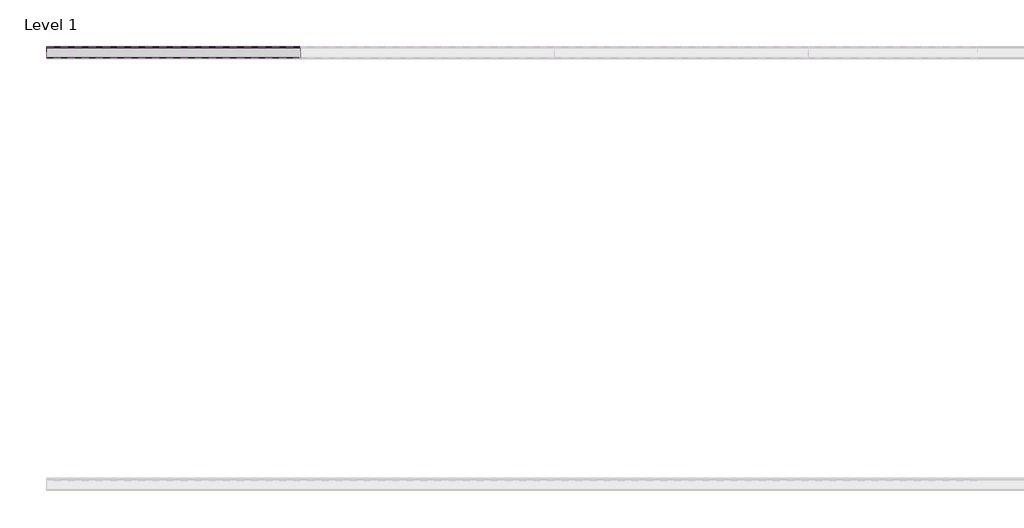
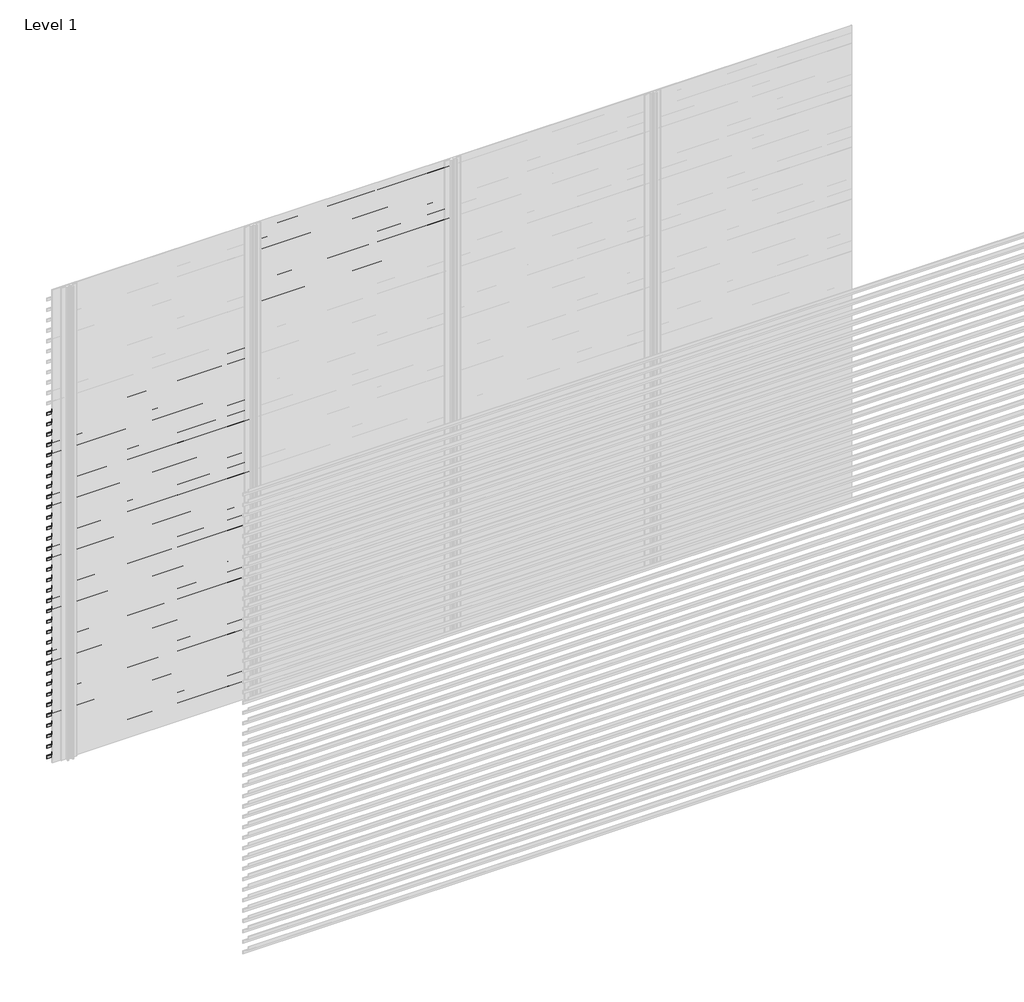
# One storey, part 20 of 540: 43 proxies.
"""IFC4 building model written with IfcOpenShell, lengths in millimetres."""

from ifc_helpers import new_model, si_unit, origin, place, context, project, spatial, faceted_brep, element, save

model = new_model("IFC4")

# Units and contexts
model_context = context("Model", 3, world=origin())
ifc_project = project(units=[si_unit("LENGTHUNIT", "METRE", prefix="MILLI")], contexts=[model_context])

# Site, building, storey
site = spatial("IfcSite", under=ifc_project)
building = spatial("IfcBuilding", under=site)
storey = spatial("IfcBuildingStorey", under=building, Name="Level 1", Elevation=0.0)

# Proxies
placement = place(None, origin())
element("IfcBuildingElementProxy", 1, Name="Wall Sweeps", at=placement, inside=storey, context=model_context, shape_type="Brep", body=[
    faceted_brep([(1666.6208097, 7042.0270068, 2187.5), (1666.6208097, 6988.2770068, 2225.0285629), (1666.6208097, 6988.2770068, 2244.0), (1666.6208097, 6987.0270068, 2244.0), (1666.6208097, 6987.0270068, 2224.3158044), (1666.6208097, 7040.7770068, 2186.7872415), (1666.6208097, 7040.7770068, 2168.2216933), (1666.6208097, 7042.0270068, 2167.5), (466.6208097, 7042.0270068, 2187.5), (466.6208097, 7042.0270068, 2167.5), (466.6208097, 7040.7770068, 2168.2216933), (466.6208097, 7040.7770068, 2186.7872415), (466.6208097, 6987.0270068, 2224.3158044), (466.6208097, 6987.0270068, 2244.0), (466.6208097, 6988.2770068, 2244.0), (466.6208097, 6988.2770068, 2225.0285629)], [[[0, 1, 2, 3, 4, 5, 6, 7]], [[8, 9, 10, 11, 12, 13, 14, 15]], [[1, 0, 8, 15]], [[2, 1, 15, 14]], [[4, 3, 13, 12]], [[6, 5, 11, 10]], [[7, 6, 10, 9]], [[0, 7, 9, 8]], [[3, 2, 14, 13]], [[5, 4, 12, 11]]]),
])
element("IfcBuildingElementProxy", 2, Name="Wall Sweeps", at=placement, inside=storey, context=model_context, shape_type="Brep", body=[
    faceted_brep([(1666.6208097, 7042.0270068, 2121.5), (1666.6208097, 6988.2770068, 2159.0285629), (1666.6208097, 6988.2770068, 2178.0), (1666.6208097, 6987.0270068, 2178.0), (1666.6208097, 6987.0270068, 2158.3158044), (1666.6208097, 7040.7770068, 2120.7872415), (1666.6208097, 7040.7770068, 2102.2216933), (1666.6208097, 7042.0270068, 2101.5), (466.6208097, 7042.0270068, 2121.5), (466.6208097, 7042.0270068, 2101.5), (466.6208097, 7040.7770068, 2102.2216933), (466.6208097, 7040.7770068, 2120.7872415), (466.6208097, 6987.0270068, 2158.3158044), (466.6208097, 6987.0270068, 2178.0), (466.6208097, 6988.2770068, 2178.0), (466.6208097, 6988.2770068, 2159.0285629)], [[[0, 1, 2, 3, 4, 5, 6, 7]], [[8, 9, 10, 11, 12, 13, 14, 15]], [[1, 0, 8, 15]], [[2, 1, 15, 14]], [[4, 3, 13, 12]], [[6, 5, 11, 10]], [[7, 6, 10, 9]], [[0, 7, 9, 8]], [[3, 2, 14, 13]], [[5, 4, 12, 11]]]),
])
element("IfcBuildingElementProxy", 3, Name="Wall Sweeps", at=placement, inside=storey, context=model_context, shape_type="Brep", body=[
    faceted_brep([(1666.6208097, 7042.0270068, 2055.5), (1666.6208097, 6988.2770068, 2093.0285629), (1666.6208097, 6988.2770068, 2112.0), (1666.6208097, 6987.0270068, 2112.0), (1666.6208097, 6987.0270068, 2092.3158044), (1666.6208097, 7040.7770068, 2054.7872415), (1666.6208097, 7040.7770068, 2036.2216933), (1666.6208097, 7042.0270068, 2035.5), (466.6208097, 7042.0270068, 2055.5), (466.6208097, 7042.0270068, 2035.5), (466.6208097, 7040.7770068, 2036.2216933), (466.6208097, 7040.7770068, 2054.7872415), (466.6208097, 6987.0270068, 2092.3158044), (466.6208097, 6987.0270068, 2112.0), (466.6208097, 6988.2770068, 2112.0), (466.6208097, 6988.2770068, 2093.0285629)], [[[0, 1, 2, 3, 4, 5, 6, 7]], [[8, 9, 10, 11, 12, 13, 14, 15]], [[1, 0, 8, 15]], [[2, 1, 15, 14]], [[4, 3, 13, 12]], [[6, 5, 11, 10]], [[7, 6, 10, 9]], [[0, 7, 9, 8]], [[3, 2, 14, 13]], [[5, 4, 12, 11]]]),
])
element("IfcBuildingElementProxy", 4, Name="Wall Sweeps", at=placement, inside=storey, context=model_context, shape_type="Brep", body=[
    faceted_brep([(1666.6208097, 7042.0270068, 1989.5), (1666.6208097, 6988.2770068, 2027.0285629), (1666.6208097, 6988.2770068, 2046.0), (1666.6208097, 6987.0270068, 2046.0), (1666.6208097, 6987.0270068, 2026.3158044), (1666.6208097, 7040.7770068, 1988.7872415), (1666.6208097, 7040.7770068, 1970.2216933), (1666.6208097, 7042.0270068, 1969.5), (466.6208097, 7042.0270068, 1989.5), (466.6208097, 7042.0270068, 1969.5), (466.6208097, 7040.7770068, 1970.2216933), (466.6208097, 7040.7770068, 1988.7872415), (466.6208097, 6987.0270068, 2026.3158044), (466.6208097, 6987.0270068, 2046.0), (466.6208097, 6988.2770068, 2046.0), (466.6208097, 6988.2770068, 2027.0285629)], [[[0, 1, 2, 3, 4, 5, 6, 7]], [[8, 9, 10, 11, 12, 13, 14, 15]], [[1, 0, 8, 15]], [[2, 1, 15, 14]], [[4, 3, 13, 12]], [[6, 5, 11, 10]], [[7, 6, 10, 9]], [[0, 7, 9, 8]], [[3, 2, 14, 13]], [[5, 4, 12, 11]]]),
])
element("IfcBuildingElementProxy", 5, Name="Wall Sweeps", at=placement, inside=storey, context=model_context, shape_type="Brep", body=[
    faceted_brep([(1666.6208097, 7042.0270068, 1923.5), (1666.6208097, 6988.2770068, 1961.0285629), (1666.6208097, 6988.2770068, 1980.0), (1666.6208097, 6987.0270068, 1980.0), (1666.6208097, 6987.0270068, 1960.3158044), (1666.6208097, 7040.7770068, 1922.7872415), (1666.6208097, 7040.7770068, 1904.2216933), (1666.6208097, 7042.0270068, 1903.5), (466.6208097, 7042.0270068, 1923.5), (466.6208097, 7042.0270068, 1903.5), (466.6208097, 7040.7770068, 1904.2216933), (466.6208097, 7040.7770068, 1922.7872415), (466.6208097, 6987.0270068, 1960.3158044), (466.6208097, 6987.0270068, 1980.0), (466.6208097, 6988.2770068, 1980.0), (466.6208097, 6988.2770068, 1961.0285629)], [[[0, 1, 2, 3, 4, 5, 6, 7]], [[8, 9, 10, 11, 12, 13, 14, 15]], [[1, 0, 8, 15]], [[2, 1, 15, 14]], [[4, 3, 13, 12]], [[6, 5, 11, 10]], [[7, 6, 10, 9]], [[0, 7, 9, 8]], [[3, 2, 14, 13]], [[5, 4, 12, 11]]]),
])
element("IfcBuildingElementProxy", 6, Name="Wall Sweeps", at=placement, inside=storey, context=model_context, shape_type="Brep", body=[
    faceted_brep([(1666.6208097, 7042.0270068, 1857.5), (1666.6208097, 6988.2770068, 1895.0285629), (1666.6208097, 6988.2770068, 1914.0), (1666.6208097, 6987.0270068, 1914.0), (1666.6208097, 6987.0270068, 1894.3158044), (1666.6208097, 7040.7770068, 1856.7872415), (1666.6208097, 7040.7770068, 1838.2216933), (1666.6208097, 7042.0270068, 1837.5), (466.6208097, 7042.0270068, 1857.5), (466.6208097, 7042.0270068, 1837.5), (466.6208097, 7040.7770068, 1838.2216933), (466.6208097, 7040.7770068, 1856.7872415), (466.6208097, 6987.0270068, 1894.3158044), (466.6208097, 6987.0270068, 1914.0), (466.6208097, 6988.2770068, 1914.0), (466.6208097, 6988.2770068, 1895.0285629)], [[[0, 1, 2, 3, 4, 5, 6, 7]], [[8, 9, 10, 11, 12, 13, 14, 15]], [[1, 0, 8, 15]], [[2, 1, 15, 14]], [[4, 3, 13, 12]], [[6, 5, 11, 10]], [[7, 6, 10, 9]], [[0, 7, 9, 8]], [[3, 2, 14, 13]], [[5, 4, 12, 11]]]),
])
element("IfcBuildingElementProxy", 7, Name="Wall Sweeps", at=placement, inside=storey, context=model_context, shape_type="Brep", body=[
    faceted_brep([(1666.6208097, 7042.0270068, 1791.5), (1666.6208097, 6988.2770068, 1829.0285629), (1666.6208097, 6988.2770068, 1848.0), (1666.6208097, 6987.0270068, 1848.0), (1666.6208097, 6987.0270068, 1828.3158044), (1666.6208097, 7040.7770068, 1790.7872415), (1666.6208097, 7040.7770068, 1772.2216933), (1666.6208097, 7042.0270068, 1771.5), (466.6208097, 7042.0270068, 1791.5), (466.6208097, 7042.0270068, 1771.5), (466.6208097, 7040.7770068, 1772.2216933), (466.6208097, 7040.7770068, 1790.7872415), (466.6208097, 6987.0270068, 1828.3158044), (466.6208097, 6987.0270068, 1848.0), (466.6208097, 6988.2770068, 1848.0), (466.6208097, 6988.2770068, 1829.0285629)], [[[0, 1, 2, 3, 4, 5, 6, 7]], [[8, 9, 10, 11, 12, 13, 14, 15]], [[1, 0, 8, 15]], [[2, 1, 15, 14]], [[4, 3, 13, 12]], [[6, 5, 11, 10]], [[7, 6, 10, 9]], [[0, 7, 9, 8]], [[3, 2, 14, 13]], [[5, 4, 12, 11]]]),
])
element("IfcBuildingElementProxy", 8, Name="Wall Sweeps", at=placement, inside=storey, context=model_context, shape_type="Brep", body=[
    faceted_brep([(1666.6208097, 7042.0270068, 1725.5), (1666.6208097, 6988.2770068, 1763.0285629), (1666.6208097, 6988.2770068, 1782.0), (1666.6208097, 6987.0270068, 1782.0), (1666.6208097, 6987.0270068, 1762.3158044), (1666.6208097, 7040.7770068, 1724.7872415), (1666.6208097, 7040.7770068, 1706.2216933), (1666.6208097, 7042.0270068, 1705.5), (466.6208097, 7042.0270068, 1725.5), (466.6208097, 7042.0270068, 1705.5), (466.6208097, 7040.7770068, 1706.2216933), (466.6208097, 7040.7770068, 1724.7872415), (466.6208097, 6987.0270068, 1762.3158044), (466.6208097, 6987.0270068, 1782.0), (466.6208097, 6988.2770068, 1782.0), (466.6208097, 6988.2770068, 1763.0285629)], [[[0, 1, 2, 3, 4, 5, 6, 7]], [[8, 9, 10, 11, 12, 13, 14, 15]], [[1, 0, 8, 15]], [[2, 1, 15, 14]], [[4, 3, 13, 12]], [[6, 5, 11, 10]], [[7, 6, 10, 9]], [[0, 7, 9, 8]], [[3, 2, 14, 13]], [[5, 4, 12, 11]]]),
])
element("IfcBuildingElementProxy", 9, Name="Wall Sweeps", at=placement, inside=storey, context=model_context, shape_type="Brep", body=[
    faceted_brep([(1666.6208097, 7042.0270068, 1659.5), (1666.6208097, 6988.2770068, 1697.0285629), (1666.6208097, 6988.2770068, 1716.0), (1666.6208097, 6987.0270068, 1716.0), (1666.6208097, 6987.0270068, 1696.3158044), (1666.6208097, 7040.7770068, 1658.7872415), (1666.6208097, 7040.7770068, 1640.2216933), (1666.6208097, 7042.0270068, 1639.5), (466.6208097, 7042.0270068, 1659.5), (466.6208097, 7042.0270068, 1639.5), (466.6208097, 7040.7770068, 1640.2216933), (466.6208097, 7040.7770068, 1658.7872415), (466.6208097, 6987.0270068, 1696.3158044), (466.6208097, 6987.0270068, 1716.0), (466.6208097, 6988.2770068, 1716.0), (466.6208097, 6988.2770068, 1697.0285629)], [[[0, 1, 2, 3, 4, 5, 6, 7]], [[8, 9, 10, 11, 12, 13, 14, 15]], [[1, 0, 8, 15]], [[2, 1, 15, 14]], [[4, 3, 13, 12]], [[6, 5, 11, 10]], [[7, 6, 10, 9]], [[0, 7, 9, 8]], [[3, 2, 14, 13]], [[5, 4, 12, 11]]]),
])
element("IfcBuildingElementProxy", 10, Name="Wall Sweeps", at=placement, inside=storey, context=model_context, shape_type="Brep", body=[
    faceted_brep([(1666.6208097, 7042.0270068, 1593.5), (1666.6208097, 6988.2770068, 1631.0285629), (1666.6208097, 6988.2770068, 1650.0), (1666.6208097, 6987.0270068, 1650.0), (1666.6208097, 6987.0270068, 1630.3158044), (1666.6208097, 7040.7770068, 1592.7872415), (1666.6208097, 7040.7770068, 1574.2216933), (1666.6208097, 7042.0270068, 1573.5), (466.6208097, 7042.0270068, 1593.5), (466.6208097, 7042.0270068, 1573.5), (466.6208097, 7040.7770068, 1574.2216933), (466.6208097, 7040.7770068, 1592.7872415), (466.6208097, 6987.0270068, 1630.3158044), (466.6208097, 6987.0270068, 1650.0), (466.6208097, 6988.2770068, 1650.0), (466.6208097, 6988.2770068, 1631.0285629)], [[[0, 1, 2, 3, 4, 5, 6, 7]], [[8, 9, 10, 11, 12, 13, 14, 15]], [[1, 0, 8, 15]], [[2, 1, 15, 14]], [[4, 3, 13, 12]], [[6, 5, 11, 10]], [[7, 6, 10, 9]], [[0, 7, 9, 8]], [[3, 2, 14, 13]], [[5, 4, 12, 11]]]),
])
element("IfcBuildingElementProxy", 11, Name="Wall Sweeps", at=placement, inside=storey, context=model_context, shape_type="Brep", body=[
    faceted_brep([(1666.6208097, 7042.0270068, 1527.5), (1666.6208097, 6988.2770068, 1565.0285629), (1666.6208097, 6988.2770068, 1584.0), (1666.6208097, 6987.0270068, 1584.0), (1666.6208097, 6987.0270068, 1564.3158044), (1666.6208097, 7040.7770068, 1526.7872415), (1666.6208097, 7040.7770068, 1508.2216933), (1666.6208097, 7042.0270068, 1507.5), (466.6208097, 7042.0270068, 1527.5), (466.6208097, 7042.0270068, 1507.5), (466.6208097, 7040.7770068, 1508.2216933), (466.6208097, 7040.7770068, 1526.7872415), (466.6208097, 6987.0270068, 1564.3158044), (466.6208097, 6987.0270068, 1584.0), (466.6208097, 6988.2770068, 1584.0), (466.6208097, 6988.2770068, 1565.0285629)], [[[0, 1, 2, 3, 4, 5, 6, 7]], [[8, 9, 10, 11, 12, 13, 14, 15]], [[1, 0, 8, 15]], [[2, 1, 15, 14]], [[4, 3, 13, 12]], [[6, 5, 11, 10]], [[7, 6, 10, 9]], [[0, 7, 9, 8]], [[3, 2, 14, 13]], [[5, 4, 12, 11]]]),
])
element("IfcBuildingElementProxy", 12, Name="Wall Sweeps", at=placement, inside=storey, context=model_context, shape_type="Brep", body=[
    faceted_brep([(1666.6208097, 7042.0270068, 1461.5), (1666.6208097, 6988.2770068, 1499.0285629), (1666.6208097, 6988.2770068, 1518.0), (1666.6208097, 6987.0270068, 1518.0), (1666.6208097, 6987.0270068, 1498.3158044), (1666.6208097, 7040.7770068, 1460.7872415), (1666.6208097, 7040.7770068, 1442.2216933), (1666.6208097, 7042.0270068, 1441.5), (466.6208097, 7042.0270068, 1461.5), (466.6208097, 7042.0270068, 1441.5), (466.6208097, 7040.7770068, 1442.2216933), (466.6208097, 7040.7770068, 1460.7872415), (466.6208097, 6987.0270068, 1498.3158044), (466.6208097, 6987.0270068, 1518.0), (466.6208097, 6988.2770068, 1518.0), (466.6208097, 6988.2770068, 1499.0285629)], [[[0, 1, 2, 3, 4, 5, 6, 7]], [[8, 9, 10, 11, 12, 13, 14, 15]], [[1, 0, 8, 15]], [[2, 1, 15, 14]], [[4, 3, 13, 12]], [[6, 5, 11, 10]], [[7, 6, 10, 9]], [[0, 7, 9, 8]], [[3, 2, 14, 13]], [[5, 4, 12, 11]]]),
])
element("IfcBuildingElementProxy", 13, Name="Wall Sweeps", at=placement, inside=storey, context=model_context, shape_type="Brep", body=[
    faceted_brep([(1666.6208097, 7042.0270068, 1395.5), (1666.6208097, 6988.2770068, 1433.0285629), (1666.6208097, 6988.2770068, 1452.0), (1666.6208097, 6987.0270068, 1452.0), (1666.6208097, 6987.0270068, 1432.3158044), (1666.6208097, 7040.7770068, 1394.7872415), (1666.6208097, 7040.7770068, 1376.2216933), (1666.6208097, 7042.0270068, 1375.5), (466.6208097, 7042.0270068, 1395.5), (466.6208097, 7042.0270068, 1375.5), (466.6208097, 7040.7770068, 1376.2216933), (466.6208097, 7040.7770068, 1394.7872415), (466.6208097, 6987.0270068, 1432.3158044), (466.6208097, 6987.0270068, 1452.0), (466.6208097, 6988.2770068, 1452.0), (466.6208097, 6988.2770068, 1433.0285629)], [[[0, 1, 2, 3, 4, 5, 6, 7]], [[8, 9, 10, 11, 12, 13, 14, 15]], [[1, 0, 8, 15]], [[2, 1, 15, 14]], [[4, 3, 13, 12]], [[6, 5, 11, 10]], [[7, 6, 10, 9]], [[0, 7, 9, 8]], [[3, 2, 14, 13]], [[5, 4, 12, 11]]]),
])
element("IfcBuildingElementProxy", 14, Name="Wall Sweeps", at=placement, inside=storey, context=model_context, shape_type="Brep", body=[
    faceted_brep([(1666.6208097, 7042.0270068, 1329.5), (1666.6208097, 6988.2770068, 1367.0285629), (1666.6208097, 6988.2770068, 1386.0), (1666.6208097, 6987.0270068, 1386.0), (1666.6208097, 6987.0270068, 1366.3158044), (1666.6208097, 7040.7770068, 1328.7872415), (1666.6208097, 7040.7770068, 1310.2216933), (1666.6208097, 7042.0270068, 1309.5), (466.6208097, 7042.0270068, 1329.5), (466.6208097, 7042.0270068, 1309.5), (466.6208097, 7040.7770068, 1310.2216933), (466.6208097, 7040.7770068, 1328.7872415), (466.6208097, 6987.0270068, 1366.3158044), (466.6208097, 6987.0270068, 1386.0), (466.6208097, 6988.2770068, 1386.0), (466.6208097, 6988.2770068, 1367.0285629)], [[[0, 1, 2, 3, 4, 5, 6, 7]], [[8, 9, 10, 11, 12, 13, 14, 15]], [[1, 0, 8, 15]], [[2, 1, 15, 14]], [[4, 3, 13, 12]], [[6, 5, 11, 10]], [[7, 6, 10, 9]], [[0, 7, 9, 8]], [[3, 2, 14, 13]], [[5, 4, 12, 11]]]),
])
element("IfcBuildingElementProxy", 15, Name="Wall Sweeps", at=placement, inside=storey, context=model_context, shape_type="Brep", body=[
    faceted_brep([(1666.6208097, 7042.0270068, 1263.5), (1666.6208097, 6988.2770068, 1301.0285629), (1666.6208097, 6988.2770068, 1320.0), (1666.6208097, 6987.0270068, 1320.0), (1666.6208097, 6987.0270068, 1300.3158044), (1666.6208097, 7040.7770068, 1262.7872415), (1666.6208097, 7040.7770068, 1244.2216933), (1666.6208097, 7042.0270068, 1243.5), (466.6208097, 7042.0270068, 1263.5), (466.6208097, 7042.0270068, 1243.5), (466.6208097, 7040.7770068, 1244.2216933), (466.6208097, 7040.7770068, 1262.7872415), (466.6208097, 6987.0270068, 1300.3158044), (466.6208097, 6987.0270068, 1320.0), (466.6208097, 6988.2770068, 1320.0), (466.6208097, 6988.2770068, 1301.0285629)], [[[0, 1, 2, 3, 4, 5, 6, 7]], [[8, 9, 10, 11, 12, 13, 14, 15]], [[1, 0, 8, 15]], [[2, 1, 15, 14]], [[4, 3, 13, 12]], [[6, 5, 11, 10]], [[7, 6, 10, 9]], [[0, 7, 9, 8]], [[3, 2, 14, 13]], [[5, 4, 12, 11]]]),
])
element("IfcBuildingElementProxy", 16, Name="Wall Sweeps", at=placement, inside=storey, context=model_context, shape_type="Brep", body=[
    faceted_brep([(1666.6208097, 7042.0270068, 1197.5), (1666.6208097, 6988.2770068, 1235.0285629), (1666.6208097, 6988.2770068, 1254.0), (1666.6208097, 6987.0270068, 1254.0), (1666.6208097, 6987.0270068, 1234.3158044), (1666.6208097, 7040.7770068, 1196.7872415), (1666.6208097, 7040.7770068, 1178.2216933), (1666.6208097, 7042.0270068, 1177.5), (466.6208097, 7042.0270068, 1197.5), (466.6208097, 7042.0270068, 1177.5), (466.6208097, 7040.7770068, 1178.2216933), (466.6208097, 7040.7770068, 1196.7872415), (466.6208097, 6987.0270068, 1234.3158044), (466.6208097, 6987.0270068, 1254.0), (466.6208097, 6988.2770068, 1254.0), (466.6208097, 6988.2770068, 1235.0285629)], [[[0, 1, 2, 3, 4, 5, 6, 7]], [[8, 9, 10, 11, 12, 13, 14, 15]], [[1, 0, 8, 15]], [[2, 1, 15, 14]], [[4, 3, 13, 12]], [[6, 5, 11, 10]], [[7, 6, 10, 9]], [[0, 7, 9, 8]], [[3, 2, 14, 13]], [[5, 4, 12, 11]]]),
])
element("IfcBuildingElementProxy", 17, Name="Wall Sweeps", at=placement, inside=storey, context=model_context, shape_type="Brep", body=[
    faceted_brep([(1666.6208097, 7042.0270068, 1131.5), (1666.6208097, 6988.2770068, 1169.0285629), (1666.6208097, 6988.2770068, 1188.0), (1666.6208097, 6987.0270068, 1188.0), (1666.6208097, 6987.0270068, 1168.3158044), (1666.6208097, 7040.7770068, 1130.7872415), (1666.6208097, 7040.7770068, 1112.2216933), (1666.6208097, 7042.0270068, 1111.5), (466.6208097, 7042.0270068, 1131.5), (466.6208097, 7042.0270068, 1111.5), (466.6208097, 7040.7770068, 1112.2216933), (466.6208097, 7040.7770068, 1130.7872415), (466.6208097, 6987.0270068, 1168.3158044), (466.6208097, 6987.0270068, 1188.0), (466.6208097, 6988.2770068, 1188.0), (466.6208097, 6988.2770068, 1169.0285629)], [[[0, 1, 2, 3, 4, 5, 6, 7]], [[8, 9, 10, 11, 12, 13, 14, 15]], [[1, 0, 8, 15]], [[2, 1, 15, 14]], [[4, 3, 13, 12]], [[6, 5, 11, 10]], [[7, 6, 10, 9]], [[0, 7, 9, 8]], [[3, 2, 14, 13]], [[5, 4, 12, 11]]]),
])
element("IfcBuildingElementProxy", 18, Name="Wall Sweeps", at=placement, inside=storey, context=model_context, shape_type="Brep", body=[
    faceted_brep([(1666.6208097, 7042.0270068, 1065.5), (1666.6208097, 6988.2770068, 1103.0285629), (1666.6208097, 6988.2770068, 1122.0), (1666.6208097, 6987.0270068, 1122.0), (1666.6208097, 6987.0270068, 1102.3158044), (1666.6208097, 7040.7770068, 1064.7872415), (1666.6208097, 7040.7770068, 1046.2216933), (1666.6208097, 7042.0270068, 1045.5), (466.6208097, 7042.0270068, 1065.5), (466.6208097, 7042.0270068, 1045.5), (466.6208097, 7040.7770068, 1046.2216933), (466.6208097, 7040.7770068, 1064.7872415), (466.6208097, 6987.0270068, 1102.3158044), (466.6208097, 6987.0270068, 1122.0), (466.6208097, 6988.2770068, 1122.0), (466.6208097, 6988.2770068, 1103.0285629)], [[[0, 1, 2, 3, 4, 5, 6, 7]], [[8, 9, 10, 11, 12, 13, 14, 15]], [[1, 0, 8, 15]], [[2, 1, 15, 14]], [[4, 3, 13, 12]], [[6, 5, 11, 10]], [[7, 6, 10, 9]], [[0, 7, 9, 8]], [[3, 2, 14, 13]], [[5, 4, 12, 11]]]),
])
element("IfcBuildingElementProxy", 19, Name="Wall Sweeps", at=placement, inside=storey, context=model_context, shape_type="Brep", body=[
    faceted_brep([(1666.6208097, 7042.0270068, 999.5), (1666.6208097, 6988.2770068, 1037.0285629), (1666.6208097, 6988.2770068, 1056.0), (1666.6208097, 6987.0270068, 1056.0), (1666.6208097, 6987.0270068, 1036.3158044), (1666.6208097, 7040.7770068, 998.7872415), (1666.6208097, 7040.7770068, 980.2216933), (1666.6208097, 7042.0270068, 979.5), (466.6208097, 7042.0270068, 999.5), (466.6208097, 7042.0270068, 979.5), (466.6208097, 7040.7770068, 980.2216933), (466.6208097, 7040.7770068, 998.7872415), (466.6208097, 6987.0270068, 1036.3158044), (466.6208097, 6987.0270068, 1056.0), (466.6208097, 6988.2770068, 1056.0), (466.6208097, 6988.2770068, 1037.0285629)], [[[0, 1, 2, 3, 4, 5, 6, 7]], [[8, 9, 10, 11, 12, 13, 14, 15]], [[1, 0, 8, 15]], [[2, 1, 15, 14]], [[4, 3, 13, 12]], [[6, 5, 11, 10]], [[7, 6, 10, 9]], [[0, 7, 9, 8]], [[3, 2, 14, 13]], [[5, 4, 12, 11]]]),
])
element("IfcBuildingElementProxy", 20, Name="Wall Sweeps", at=placement, inside=storey, context=model_context, shape_type="Brep", body=[
    faceted_brep([(1666.6208097, 7042.0270068, 933.5), (1666.6208097, 6988.2770068, 971.0285629), (1666.6208097, 6988.2770068, 990.0), (1666.6208097, 6987.0270068, 990.0), (1666.6208097, 6987.0270068, 970.3158044), (1666.6208097, 7040.7770068, 932.7872415), (1666.6208097, 7040.7770068, 914.2216933), (1666.6208097, 7042.0270068, 913.5), (466.6208097, 7042.0270068, 933.5), (466.6208097, 7042.0270068, 913.5), (466.6208097, 7040.7770068, 914.2216933), (466.6208097, 7040.7770068, 932.7872415), (466.6208097, 6987.0270068, 970.3158044), (466.6208097, 6987.0270068, 990.0), (466.6208097, 6988.2770068, 990.0), (466.6208097, 6988.2770068, 971.0285629)], [[[0, 1, 2, 3, 4, 5, 6, 7]], [[8, 9, 10, 11, 12, 13, 14, 15]], [[1, 0, 8, 15]], [[2, 1, 15, 14]], [[4, 3, 13, 12]], [[6, 5, 11, 10]], [[7, 6, 10, 9]], [[0, 7, 9, 8]], [[3, 2, 14, 13]], [[5, 4, 12, 11]]]),
])
element("IfcBuildingElementProxy", 21, Name="Wall Sweeps", at=placement, inside=storey, context=model_context, shape_type="Brep", body=[
    faceted_brep([(1666.6208097, 7042.0270068, 867.5), (1666.6208097, 6988.2770068, 905.0285629), (1666.6208097, 6988.2770068, 924.0), (1666.6208097, 6987.0270068, 924.0), (1666.6208097, 6987.0270068, 904.3158044), (1666.6208097, 7040.7770068, 866.7872415), (1666.6208097, 7040.7770068, 848.2216933), (1666.6208097, 7042.0270068, 847.5), (466.6208097, 7042.0270068, 867.5), (466.6208097, 7042.0270068, 847.5), (466.6208097, 7040.7770068, 848.2216933), (466.6208097, 7040.7770068, 866.7872415), (466.6208097, 6987.0270068, 904.3158044), (466.6208097, 6987.0270068, 924.0), (466.6208097, 6988.2770068, 924.0), (466.6208097, 6988.2770068, 905.0285629)], [[[0, 1, 2, 3, 4, 5, 6, 7]], [[8, 9, 10, 11, 12, 13, 14, 15]], [[1, 0, 8, 15]], [[2, 1, 15, 14]], [[4, 3, 13, 12]], [[6, 5, 11, 10]], [[7, 6, 10, 9]], [[0, 7, 9, 8]], [[3, 2, 14, 13]], [[5, 4, 12, 11]]]),
])
element("IfcBuildingElementProxy", 22, Name="Wall Sweeps", at=placement, inside=storey, context=model_context, shape_type="Brep", body=[
    faceted_brep([(1666.6208097, 7042.0270068, 801.5), (1666.6208097, 6988.2770068, 839.0285629), (1666.6208097, 6988.2770068, 858.0), (1666.6208097, 6987.0270068, 858.0), (1666.6208097, 6987.0270068, 838.3158044), (1666.6208097, 7040.7770068, 800.7872415), (1666.6208097, 7040.7770068, 782.2216933), (1666.6208097, 7042.0270068, 781.5), (466.6208097, 7042.0270068, 801.5), (466.6208097, 7042.0270068, 781.5), (466.6208097, 7040.7770068, 782.2216933), (466.6208097, 7040.7770068, 800.7872415), (466.6208097, 6987.0270068, 838.3158044), (466.6208097, 6987.0270068, 858.0), (466.6208097, 6988.2770068, 858.0), (466.6208097, 6988.2770068, 839.0285629)], [[[0, 1, 2, 3, 4, 5, 6, 7]], [[8, 9, 10, 11, 12, 13, 14, 15]], [[1, 0, 8, 15]], [[2, 1, 15, 14]], [[4, 3, 13, 12]], [[6, 5, 11, 10]], [[7, 6, 10, 9]], [[0, 7, 9, 8]], [[3, 2, 14, 13]], [[5, 4, 12, 11]]]),
])
element("IfcBuildingElementProxy", 23, Name="Wall Sweeps", at=placement, inside=storey, context=model_context, shape_type="Brep", body=[
    faceted_brep([(1666.6208097, 7042.0270068, 735.5), (1666.6208097, 6988.2770068, 773.0285629), (1666.6208097, 6988.2770068, 792.0), (1666.6208097, 6987.0270068, 792.0), (1666.6208097, 6987.0270068, 772.3158044), (1666.6208097, 7040.7770068, 734.7872415), (1666.6208097, 7040.7770068, 716.2216933), (1666.6208097, 7042.0270068, 715.5), (466.6208097, 7042.0270068, 735.5), (466.6208097, 7042.0270068, 715.5), (466.6208097, 7040.7770068, 716.2216933), (466.6208097, 7040.7770068, 734.7872415), (466.6208097, 6987.0270068, 772.3158044), (466.6208097, 6987.0270068, 792.0), (466.6208097, 6988.2770068, 792.0), (466.6208097, 6988.2770068, 773.0285629)], [[[0, 1, 2, 3, 4, 5, 6, 7]], [[8, 9, 10, 11, 12, 13, 14, 15]], [[1, 0, 8, 15]], [[2, 1, 15, 14]], [[4, 3, 13, 12]], [[6, 5, 11, 10]], [[7, 6, 10, 9]], [[0, 7, 9, 8]], [[3, 2, 14, 13]], [[5, 4, 12, 11]]]),
])
element("IfcBuildingElementProxy", 24, Name="Wall Sweeps", at=placement, inside=storey, context=model_context, shape_type="Brep", body=[
    faceted_brep([(1666.6208097, 7042.0270068, 669.5), (1666.6208097, 6988.2770068, 707.0285629), (1666.6208097, 6988.2770068, 726.0), (1666.6208097, 6987.0270068, 726.0), (1666.6208097, 6987.0270068, 706.3158044), (1666.6208097, 7040.7770068, 668.7872415), (1666.6208097, 7040.7770068, 650.2216933), (1666.6208097, 7042.0270068, 649.5), (466.6208097, 7042.0270068, 669.5), (466.6208097, 7042.0270068, 649.5), (466.6208097, 7040.7770068, 650.2216933), (466.6208097, 7040.7770068, 668.7872415), (466.6208097, 6987.0270068, 706.3158044), (466.6208097, 6987.0270068, 726.0), (466.6208097, 6988.2770068, 726.0), (466.6208097, 6988.2770068, 707.0285629)], [[[0, 1, 2, 3, 4, 5, 6, 7]], [[8, 9, 10, 11, 12, 13, 14, 15]], [[1, 0, 8, 15]], [[2, 1, 15, 14]], [[4, 3, 13, 12]], [[6, 5, 11, 10]], [[7, 6, 10, 9]], [[0, 7, 9, 8]], [[3, 2, 14, 13]], [[5, 4, 12, 11]]]),
])
element("IfcBuildingElementProxy", 25, Name="Wall Sweeps", at=placement, inside=storey, context=model_context, shape_type="Brep", body=[
    faceted_brep([(1666.6208097, 7042.0270068, 603.5), (1666.6208097, 6988.2770068, 641.0285629), (1666.6208097, 6988.2770068, 660.0), (1666.6208097, 6987.0270068, 660.0), (1666.6208097, 6987.0270068, 640.3158044), (1666.6208097, 7040.7770068, 602.7872415), (1666.6208097, 7040.7770068, 584.2216933), (1666.6208097, 7042.0270068, 583.5), (466.6208097, 7042.0270068, 603.5), (466.6208097, 7042.0270068, 583.5), (466.6208097, 7040.7770068, 584.2216933), (466.6208097, 7040.7770068, 602.7872415), (466.6208097, 6987.0270068, 640.3158044), (466.6208097, 6987.0270068, 660.0), (466.6208097, 6988.2770068, 660.0), (466.6208097, 6988.2770068, 641.0285629)], [[[0, 1, 2, 3, 4, 5, 6, 7]], [[8, 9, 10, 11, 12, 13, 14, 15]], [[1, 0, 8, 15]], [[2, 1, 15, 14]], [[4, 3, 13, 12]], [[6, 5, 11, 10]], [[7, 6, 10, 9]], [[0, 7, 9, 8]], [[3, 2, 14, 13]], [[5, 4, 12, 11]]]),
])
element("IfcBuildingElementProxy", 26, Name="Wall Sweeps", at=placement, inside=storey, context=model_context, shape_type="Brep", body=[
    faceted_brep([(1666.6208097, 7042.0270068, 537.5), (1666.6208097, 6988.2770068, 575.0285629), (1666.6208097, 6988.2770068, 594.0), (1666.6208097, 6987.0270068, 594.0), (1666.6208097, 6987.0270068, 574.3158044), (1666.6208097, 7040.7770068, 536.7872415), (1666.6208097, 7040.7770068, 518.2216933), (1666.6208097, 7042.0270068, 517.5), (466.6208097, 7042.0270068, 537.5), (466.6208097, 7042.0270068, 517.5), (466.6208097, 7040.7770068, 518.2216933), (466.6208097, 7040.7770068, 536.7872415), (466.6208097, 6987.0270068, 574.3158044), (466.6208097, 6987.0270068, 594.0), (466.6208097, 6988.2770068, 594.0), (466.6208097, 6988.2770068, 575.0285629)], [[[0, 1, 2, 3, 4, 5, 6, 7]], [[8, 9, 10, 11, 12, 13, 14, 15]], [[1, 0, 8, 15]], [[2, 1, 15, 14]], [[4, 3, 13, 12]], [[6, 5, 11, 10]], [[7, 6, 10, 9]], [[0, 7, 9, 8]], [[3, 2, 14, 13]], [[5, 4, 12, 11]]]),
])
element("IfcBuildingElementProxy", 27, Name="Wall Sweeps", at=placement, inside=storey, context=model_context, shape_type="Brep", body=[
    faceted_brep([(1666.6208097, 7042.0270068, 471.5), (1666.6208097, 6988.2770068, 509.0285629), (1666.6208097, 6988.2770068, 528.0), (1666.6208097, 6987.0270068, 528.0), (1666.6208097, 6987.0270068, 508.3158044), (1666.6208097, 7040.7770068, 470.7872415), (1666.6208097, 7040.7770068, 452.2216933), (1666.6208097, 7042.0270068, 451.5), (466.6208097, 7042.0270068, 471.5), (466.6208097, 7042.0270068, 451.5), (466.6208097, 7040.7770068, 452.2216933), (466.6208097, 7040.7770068, 470.7872415), (466.6208097, 6987.0270068, 508.3158044), (466.6208097, 6987.0270068, 528.0), (466.6208097, 6988.2770068, 528.0), (466.6208097, 6988.2770068, 509.0285629)], [[[0, 1, 2, 3, 4, 5, 6, 7]], [[8, 9, 10, 11, 12, 13, 14, 15]], [[1, 0, 8, 15]], [[2, 1, 15, 14]], [[4, 3, 13, 12]], [[6, 5, 11, 10]], [[7, 6, 10, 9]], [[0, 7, 9, 8]], [[3, 2, 14, 13]], [[5, 4, 12, 11]]]),
])
element("IfcBuildingElementProxy", 28, Name="Wall Sweeps", at=placement, inside=storey, context=model_context, shape_type="Brep", body=[
    faceted_brep([(1666.6208097, 7042.0270068, 405.5), (1666.6208097, 6988.2770068, 443.0285629), (1666.6208097, 6988.2770068, 462.0), (1666.6208097, 6987.0270068, 462.0), (1666.6208097, 6987.0270068, 442.3158044), (1666.6208097, 7040.7770068, 404.7872415), (1666.6208097, 7040.7770068, 386.2216933), (1666.6208097, 7042.0270068, 385.5), (466.6208097, 7042.0270068, 405.5), (466.6208097, 7042.0270068, 385.5), (466.6208097, 7040.7770068, 386.2216933), (466.6208097, 7040.7770068, 404.7872415), (466.6208097, 6987.0270068, 442.3158044), (466.6208097, 6987.0270068, 462.0), (466.6208097, 6988.2770068, 462.0), (466.6208097, 6988.2770068, 443.0285629)], [[[0, 1, 2, 3, 4, 5, 6, 7]], [[8, 9, 10, 11, 12, 13, 14, 15]], [[1, 0, 8, 15]], [[2, 1, 15, 14]], [[4, 3, 13, 12]], [[6, 5, 11, 10]], [[7, 6, 10, 9]], [[0, 7, 9, 8]], [[3, 2, 14, 13]], [[5, 4, 12, 11]]]),
])
element("IfcBuildingElementProxy", 29, Name="Wall Sweeps", at=placement, inside=storey, context=model_context, shape_type="Brep", body=[
    faceted_brep([(1666.6208097, 7042.0270068, 339.5), (1666.6208097, 6988.2770068, 377.0285629), (1666.6208097, 6988.2770068, 396.0), (1666.6208097, 6987.0270068, 396.0), (1666.6208097, 6987.0270068, 376.3158044), (1666.6208097, 7040.7770068, 338.7872415), (1666.6208097, 7040.7770068, 320.2216933), (1666.6208097, 7042.0270068, 319.5), (466.6208097, 7042.0270068, 339.5), (466.6208097, 7042.0270068, 319.5), (466.6208097, 7040.7770068, 320.2216933), (466.6208097, 7040.7770068, 338.7872415), (466.6208097, 6987.0270068, 376.3158044), (466.6208097, 6987.0270068, 396.0), (466.6208097, 6988.2770068, 396.0), (466.6208097, 6988.2770068, 377.0285629)], [[[0, 1, 2, 3, 4, 5, 6, 7]], [[8, 9, 10, 11, 12, 13, 14, 15]], [[1, 0, 8, 15]], [[2, 1, 15, 14]], [[4, 3, 13, 12]], [[6, 5, 11, 10]], [[7, 6, 10, 9]], [[0, 7, 9, 8]], [[3, 2, 14, 13]], [[5, 4, 12, 11]]]),
])
element("IfcBuildingElementProxy", 30, Name="Wall Sweeps", at=placement, inside=storey, context=model_context, shape_type="Brep", body=[
    faceted_brep([(1666.6208097, 7042.0270068, 273.5), (1666.6208097, 6988.2770068, 311.0285629), (1666.6208097, 6988.2770068, 330.0), (1666.6208097, 6987.0270068, 330.0), (1666.6208097, 6987.0270068, 310.3158044), (1666.6208097, 7040.7770068, 272.7872415), (1666.6208097, 7040.7770068, 254.2216933), (1666.6208097, 7042.0270068, 253.5), (466.6208097, 7042.0270068, 273.5), (466.6208097, 7042.0270068, 253.5), (466.6208097, 7040.7770068, 254.2216933), (466.6208097, 7040.7770068, 272.7872415), (466.6208097, 6987.0270068, 310.3158044), (466.6208097, 6987.0270068, 330.0), (466.6208097, 6988.2770068, 330.0), (466.6208097, 6988.2770068, 311.0285629)], [[[0, 1, 2, 3, 4, 5, 6, 7]], [[8, 9, 10, 11, 12, 13, 14, 15]], [[1, 0, 8, 15]], [[2, 1, 15, 14]], [[4, 3, 13, 12]], [[6, 5, 11, 10]], [[7, 6, 10, 9]], [[0, 7, 9, 8]], [[3, 2, 14, 13]], [[5, 4, 12, 11]]]),
])
element("IfcBuildingElementProxy", 31, Name="Wall Sweeps", at=placement, inside=storey, context=model_context, shape_type="Brep", body=[
    faceted_brep([(1666.6208097, 7042.0270068, 207.5), (1666.6208097, 6988.2770068, 245.0285629), (1666.6208097, 6988.2770068, 264.0), (1666.6208097, 6987.0270068, 264.0), (1666.6208097, 6987.0270068, 244.3158044), (1666.6208097, 7040.7770068, 206.7872415), (1666.6208097, 7040.7770068, 188.2216933), (1666.6208097, 7042.0270068, 187.5), (466.6208097, 7042.0270068, 207.5), (466.6208097, 7042.0270068, 187.5), (466.6208097, 7040.7770068, 188.2216933), (466.6208097, 7040.7770068, 206.7872415), (466.6208097, 6987.0270068, 244.3158044), (466.6208097, 6987.0270068, 264.0), (466.6208097, 6988.2770068, 264.0), (466.6208097, 6988.2770068, 245.0285629)], [[[0, 1, 2, 3, 4, 5, 6, 7]], [[8, 9, 10, 11, 12, 13, 14, 15]], [[1, 0, 8, 15]], [[2, 1, 15, 14]], [[4, 3, 13, 12]], [[6, 5, 11, 10]], [[7, 6, 10, 9]], [[0, 7, 9, 8]], [[3, 2, 14, 13]], [[5, 4, 12, 11]]]),
])
element("IfcBuildingElementProxy", 32, Name="Wall Sweeps", at=placement, inside=storey, context=model_context, shape_type="Brep", body=[
    faceted_brep([(1666.6208097, 7042.0270068, 141.5), (1666.6208097, 6988.2770068, 179.0285629), (1666.6208097, 6988.2770068, 198.0), (1666.6208097, 6987.0270068, 198.0), (1666.6208097, 6987.0270068, 178.3158044), (1666.6208097, 7040.7770068, 140.7872415), (1666.6208097, 7040.7770068, 122.2216933), (1666.6208097, 7042.0270068, 121.5), (466.6208097, 7042.0270068, 141.5), (466.6208097, 7042.0270068, 121.5), (466.6208097, 7040.7770068, 122.2216933), (466.6208097, 7040.7770068, 140.7872415), (466.6208097, 6987.0270068, 178.3158044), (466.6208097, 6987.0270068, 198.0), (466.6208097, 6988.2770068, 198.0), (466.6208097, 6988.2770068, 179.0285629)], [[[0, 1, 2, 3, 4, 5, 6, 7]], [[8, 9, 10, 11, 12, 13, 14, 15]], [[1, 0, 8, 15]], [[2, 1, 15, 14]], [[4, 3, 13, 12]], [[6, 5, 11, 10]], [[7, 6, 10, 9]], [[0, 7, 9, 8]], [[3, 2, 14, 13]], [[5, 4, 12, 11]]]),
])
element("IfcBuildingElementProxy", 33, Name="Wall Sweeps", at=placement, inside=storey, context=model_context, shape_type="Brep", body=[
    faceted_brep([(1666.6208097, 7042.0270068, 75.5), (1666.6208097, 6988.2770068, 113.0285629), (1666.6208097, 6988.2770068, 132.0), (1666.6208097, 6987.0270068, 132.0), (1666.6208097, 6987.0270068, 112.3158044), (1666.6208097, 7040.7770068, 74.7872415), (1666.6208097, 7040.7770068, 56.2216933), (1666.6208097, 7042.0270068, 55.5), (466.6208097, 7042.0270068, 75.5), (466.6208097, 7042.0270068, 55.5), (466.6208097, 7040.7770068, 56.2216933), (466.6208097, 7040.7770068, 74.7872415), (466.6208097, 6987.0270068, 112.3158044), (466.6208097, 6987.0270068, 132.0), (466.6208097, 6988.2770068, 132.0), (466.6208097, 6988.2770068, 113.0285629)], [[[0, 1, 2, 3, 4, 5, 6, 7]], [[8, 9, 10, 11, 12, 13, 14, 15]], [[1, 0, 8, 15]], [[2, 1, 15, 14]], [[4, 3, 13, 12]], [[6, 5, 11, 10]], [[7, 6, 10, 9]], [[0, 7, 9, 8]], [[3, 2, 14, 13]], [[5, 4, 12, 11]]]),
])
element("IfcBuildingElementProxy", 34, Name="Wall Sweeps", at=placement, inside=storey, context=model_context, shape_type="Brep", body=[
    faceted_brep([(1666.6208097, 7042.0270068, 9.5), (1666.6208097, 6988.2770068, 47.0285629), (1666.6208097, 6988.2770068, 66.0), (1666.6208097, 6987.0270068, 66.0), (1666.6208097, 6987.0270068, 46.3158044), (1666.6208097, 7040.7770068, 8.7872415), (1666.6208097, 7040.7770068, -9.7783067), (1666.6208097, 7042.0270068, -10.5), (466.6208097, 7042.0270068, 9.5), (466.6208097, 7042.0270068, -10.5), (466.6208097, 7040.7770068, -9.7783067), (466.6208097, 7040.7770068, 8.7872415), (466.6208097, 6987.0270068, 46.3158044), (466.6208097, 6987.0270068, 66.0), (466.6208097, 6988.2770068, 66.0), (466.6208097, 6988.2770068, 47.0285629)], [[[0, 1, 2, 3, 4, 5, 6, 7]], [[8, 9, 10, 11, 12, 13, 14, 15]], [[1, 0, 8, 15]], [[2, 1, 15, 14]], [[4, 3, 13, 12]], [[6, 5, 11, 10]], [[7, 6, 10, 9]], [[0, 7, 9, 8]], [[3, 2, 14, 13]], [[5, 4, 12, 11]]]),
])
element("IfcBuildingElementProxy", 35, Name="Wall Sweeps", at=placement, inside=storey, context=model_context, shape_type="Brep", body=[
    faceted_brep([(2866.6208097, 7042.0270068, 2913.5), (2866.6208097, 6988.2770068, 2951.0285629), (2866.6208097, 6988.2770068, 2970.0), (2866.6208097, 6987.0270068, 2970.0), (2866.6208097, 6987.0270068, 2950.3158044), (2866.6208097, 7040.7770068, 2912.7872415), (2866.6208097, 7040.7770068, 2894.2216933), (2866.6208097, 7042.0270068, 2893.5), (1666.6208097, 7042.0270068, 2913.5), (1666.6208097, 7042.0270068, 2893.5), (1666.6208097, 7040.7770068, 2894.2216933), (1666.6208097, 7040.7770068, 2912.7872415), (1666.6208097, 6987.0270068, 2950.3158044), (1666.6208097, 6987.0270068, 2970.0), (1666.6208097, 6988.2770068, 2970.0), (1666.6208097, 6988.2770068, 2951.0285629)], [[[0, 1, 2, 3, 4, 5, 6, 7]], [[8, 9, 10, 11, 12, 13, 14, 15]], [[1, 0, 8, 15]], [[2, 1, 15, 14]], [[4, 3, 13, 12]], [[6, 5, 11, 10]], [[7, 6, 10, 9]], [[0, 7, 9, 8]], [[3, 2, 14, 13]], [[5, 4, 12, 11]]]),
])
element("IfcBuildingElementProxy", 36, Name="Wall Sweeps", at=placement, inside=storey, context=model_context, shape_type="Brep", body=[
    faceted_brep([(2866.6208097, 7042.0270068, 2847.5), (2866.6208097, 6988.2770068, 2885.0285629), (2866.6208097, 6988.2770068, 2904.0), (2866.6208097, 6987.0270068, 2904.0), (2866.6208097, 6987.0270068, 2884.3158044), (2866.6208097, 7040.7770068, 2846.7872415), (2866.6208097, 7040.7770068, 2828.2216933), (2866.6208097, 7042.0270068, 2827.5), (1666.6208097, 7042.0270068, 2847.5), (1666.6208097, 7042.0270068, 2827.5), (1666.6208097, 7040.7770068, 2828.2216933), (1666.6208097, 7040.7770068, 2846.7872415), (1666.6208097, 6987.0270068, 2884.3158044), (1666.6208097, 6987.0270068, 2904.0), (1666.6208097, 6988.2770068, 2904.0), (1666.6208097, 6988.2770068, 2885.0285629)], [[[0, 1, 2, 3, 4, 5, 6, 7]], [[8, 9, 10, 11, 12, 13, 14, 15]], [[1, 0, 8, 15]], [[2, 1, 15, 14]], [[4, 3, 13, 12]], [[6, 5, 11, 10]], [[7, 6, 10, 9]], [[0, 7, 9, 8]], [[3, 2, 14, 13]], [[5, 4, 12, 11]]]),
])
element("IfcBuildingElementProxy", 37, Name="Wall Sweeps", at=placement, inside=storey, context=model_context, shape_type="Brep", body=[
    faceted_brep([(2866.6208097, 7042.0270068, 2781.5), (2866.6208097, 6988.2770068, 2819.0285629), (2866.6208097, 6988.2770068, 2838.0), (2866.6208097, 6987.0270068, 2838.0), (2866.6208097, 6987.0270068, 2818.3158044), (2866.6208097, 7040.7770068, 2780.7872415), (2866.6208097, 7040.7770068, 2762.2216933), (2866.6208097, 7042.0270068, 2761.5), (1666.6208097, 7042.0270068, 2781.5), (1666.6208097, 7042.0270068, 2761.5), (1666.6208097, 7040.7770068, 2762.2216933), (1666.6208097, 7040.7770068, 2780.7872415), (1666.6208097, 6987.0270068, 2818.3158044), (1666.6208097, 6987.0270068, 2838.0), (1666.6208097, 6988.2770068, 2838.0), (1666.6208097, 6988.2770068, 2819.0285629)], [[[0, 1, 2, 3, 4, 5, 6, 7]], [[8, 9, 10, 11, 12, 13, 14, 15]], [[1, 0, 8, 15]], [[2, 1, 15, 14]], [[4, 3, 13, 12]], [[6, 5, 11, 10]], [[7, 6, 10, 9]], [[0, 7, 9, 8]], [[3, 2, 14, 13]], [[5, 4, 12, 11]]]),
])
element("IfcBuildingElementProxy", 38, Name="Wall Sweeps", at=placement, inside=storey, context=model_context, shape_type="Brep", body=[
    faceted_brep([(2866.6208097, 7042.0270068, 2715.5), (2866.6208097, 6988.2770068, 2753.0285629), (2866.6208097, 6988.2770068, 2772.0), (2866.6208097, 6987.0270068, 2772.0), (2866.6208097, 6987.0270068, 2752.3158044), (2866.6208097, 7040.7770068, 2714.7872415), (2866.6208097, 7040.7770068, 2696.2216933), (2866.6208097, 7042.0270068, 2695.5), (1666.6208097, 7042.0270068, 2715.5), (1666.6208097, 7042.0270068, 2695.5), (1666.6208097, 7040.7770068, 2696.2216933), (1666.6208097, 7040.7770068, 2714.7872415), (1666.6208097, 6987.0270068, 2752.3158044), (1666.6208097, 6987.0270068, 2772.0), (1666.6208097, 6988.2770068, 2772.0), (1666.6208097, 6988.2770068, 2753.0285629)], [[[0, 1, 2, 3, 4, 5, 6, 7]], [[8, 9, 10, 11, 12, 13, 14, 15]], [[1, 0, 8, 15]], [[2, 1, 15, 14]], [[4, 3, 13, 12]], [[6, 5, 11, 10]], [[7, 6, 10, 9]], [[0, 7, 9, 8]], [[3, 2, 14, 13]], [[5, 4, 12, 11]]]),
])
element("IfcBuildingElementProxy", 39, Name="Wall Sweeps", at=placement, inside=storey, context=model_context, shape_type="Brep", body=[
    faceted_brep([(2866.6208097, 7042.0270068, 2649.5), (2866.6208097, 6988.2770068, 2687.0285629), (2866.6208097, 6988.2770068, 2706.0), (2866.6208097, 6987.0270068, 2706.0), (2866.6208097, 6987.0270068, 2686.3158044), (2866.6208097, 7040.7770068, 2648.7872415), (2866.6208097, 7040.7770068, 2630.2216933), (2866.6208097, 7042.0270068, 2629.5), (1666.6208097, 7042.0270068, 2649.5), (1666.6208097, 7042.0270068, 2629.5), (1666.6208097, 7040.7770068, 2630.2216933), (1666.6208097, 7040.7770068, 2648.7872415), (1666.6208097, 6987.0270068, 2686.3158044), (1666.6208097, 6987.0270068, 2706.0), (1666.6208097, 6988.2770068, 2706.0), (1666.6208097, 6988.2770068, 2687.0285629)], [[[0, 1, 2, 3, 4, 5, 6, 7]], [[8, 9, 10, 11, 12, 13, 14, 15]], [[1, 0, 8, 15]], [[2, 1, 15, 14]], [[4, 3, 13, 12]], [[6, 5, 11, 10]], [[7, 6, 10, 9]], [[0, 7, 9, 8]], [[3, 2, 14, 13]], [[5, 4, 12, 11]]]),
])
element("IfcBuildingElementProxy", 40, Name="Wall Sweeps", at=placement, inside=storey, context=model_context, shape_type="Brep", body=[
    faceted_brep([(2866.6208097, 7042.0270068, 2583.5), (2866.6208097, 6988.2770068, 2621.0285629), (2866.6208097, 6988.2770068, 2640.0), (2866.6208097, 6987.0270068, 2640.0), (2866.6208097, 6987.0270068, 2620.3158044), (2866.6208097, 7040.7770068, 2582.7872415), (2866.6208097, 7040.7770068, 2564.2216933), (2866.6208097, 7042.0270068, 2563.5), (1666.6208097, 7042.0270068, 2583.5), (1666.6208097, 7042.0270068, 2563.5), (1666.6208097, 7040.7770068, 2564.2216933), (1666.6208097, 7040.7770068, 2582.7872415), (1666.6208097, 6987.0270068, 2620.3158044), (1666.6208097, 6987.0270068, 2640.0), (1666.6208097, 6988.2770068, 2640.0), (1666.6208097, 6988.2770068, 2621.0285629)], [[[0, 1, 2, 3, 4, 5, 6, 7]], [[8, 9, 10, 11, 12, 13, 14, 15]], [[1, 0, 8, 15]], [[2, 1, 15, 14]], [[4, 3, 13, 12]], [[6, 5, 11, 10]], [[7, 6, 10, 9]], [[0, 7, 9, 8]], [[3, 2, 14, 13]], [[5, 4, 12, 11]]]),
])
element("IfcBuildingElementProxy", 41, Name="Wall Sweeps", at=placement, inside=storey, context=model_context, shape_type="Brep", body=[
    faceted_brep([(2866.6208097, 7042.0270068, 2517.5), (2866.6208097, 6988.2770068, 2555.0285629), (2866.6208097, 6988.2770068, 2574.0), (2866.6208097, 6987.0270068, 2574.0), (2866.6208097, 6987.0270068, 2554.3158044), (2866.6208097, 7040.7770068, 2516.7872415), (2866.6208097, 7040.7770068, 2498.2216933), (2866.6208097, 7042.0270068, 2497.5), (1666.6208097, 7042.0270068, 2517.5), (1666.6208097, 7042.0270068, 2497.5), (1666.6208097, 7040.7770068, 2498.2216933), (1666.6208097, 7040.7770068, 2516.7872415), (1666.6208097, 6987.0270068, 2554.3158044), (1666.6208097, 6987.0270068, 2574.0), (1666.6208097, 6988.2770068, 2574.0), (1666.6208097, 6988.2770068, 2555.0285629)], [[[0, 1, 2, 3, 4, 5, 6, 7]], [[8, 9, 10, 11, 12, 13, 14, 15]], [[1, 0, 8, 15]], [[2, 1, 15, 14]], [[4, 3, 13, 12]], [[6, 5, 11, 10]], [[7, 6, 10, 9]], [[0, 7, 9, 8]], [[3, 2, 14, 13]], [[5, 4, 12, 11]]]),
])
element("IfcBuildingElementProxy", 42, Name="Wall Sweeps", at=placement, inside=storey, context=model_context, shape_type="Brep", body=[
    faceted_brep([(2866.6208097, 7042.0270068, 2451.5), (2866.6208097, 6988.2770068, 2489.0285629), (2866.6208097, 6988.2770068, 2508.0), (2866.6208097, 6987.0270068, 2508.0), (2866.6208097, 6987.0270068, 2488.3158044), (2866.6208097, 7040.7770068, 2450.7872415), (2866.6208097, 7040.7770068, 2432.2216933), (2866.6208097, 7042.0270068, 2431.5), (1666.6208097, 7042.0270068, 2451.5), (1666.6208097, 7042.0270068, 2431.5), (1666.6208097, 7040.7770068, 2432.2216933), (1666.6208097, 7040.7770068, 2450.7872415), (1666.6208097, 6987.0270068, 2488.3158044), (1666.6208097, 6987.0270068, 2508.0), (1666.6208097, 6988.2770068, 2508.0), (1666.6208097, 6988.2770068, 2489.0285629)], [[[0, 1, 2, 3, 4, 5, 6, 7]], [[8, 9, 10, 11, 12, 13, 14, 15]], [[1, 0, 8, 15]], [[2, 1, 15, 14]], [[4, 3, 13, 12]], [[6, 5, 11, 10]], [[7, 6, 10, 9]], [[0, 7, 9, 8]], [[3, 2, 14, 13]], [[5, 4, 12, 11]]]),
])
element("IfcBuildingElementProxy", 43, Name="Wall Sweeps", at=placement, inside=storey, context=model_context, shape_type="Brep", body=[
    faceted_brep([(2866.6208097, 7042.0270068, 2385.5), (2866.6208097, 6988.2770068, 2423.0285629), (2866.6208097, 6988.2770068, 2442.0), (2866.6208097, 6987.0270068, 2442.0), (2866.6208097, 6987.0270068, 2422.3158044), (2866.6208097, 7040.7770068, 2384.7872415), (2866.6208097, 7040.7770068, 2366.2216933), (2866.6208097, 7042.0270068, 2365.5), (1666.6208097, 7042.0270068, 2385.5), (1666.6208097, 7042.0270068, 2365.5), (1666.6208097, 7040.7770068, 2366.2216933), (1666.6208097, 7040.7770068, 2384.7872415), (1666.6208097, 6987.0270068, 2422.3158044), (1666.6208097, 6987.0270068, 2442.0), (1666.6208097, 6988.2770068, 2442.0), (1666.6208097, 6988.2770068, 2423.0285629)], [[[0, 1, 2, 3, 4, 5, 6, 7]], [[8, 9, 10, 11, 12, 13, 14, 15]], [[1, 0, 8, 15]], [[2, 1, 15, 14]], [[4, 3, 13, 12]], [[6, 5, 11, 10]], [[7, 6, 10, 9]], [[0, 7, 9, 8]], [[3, 2, 14, 13]], [[5, 4, 12, 11]]]),
])

save(model, "model.ifc")
